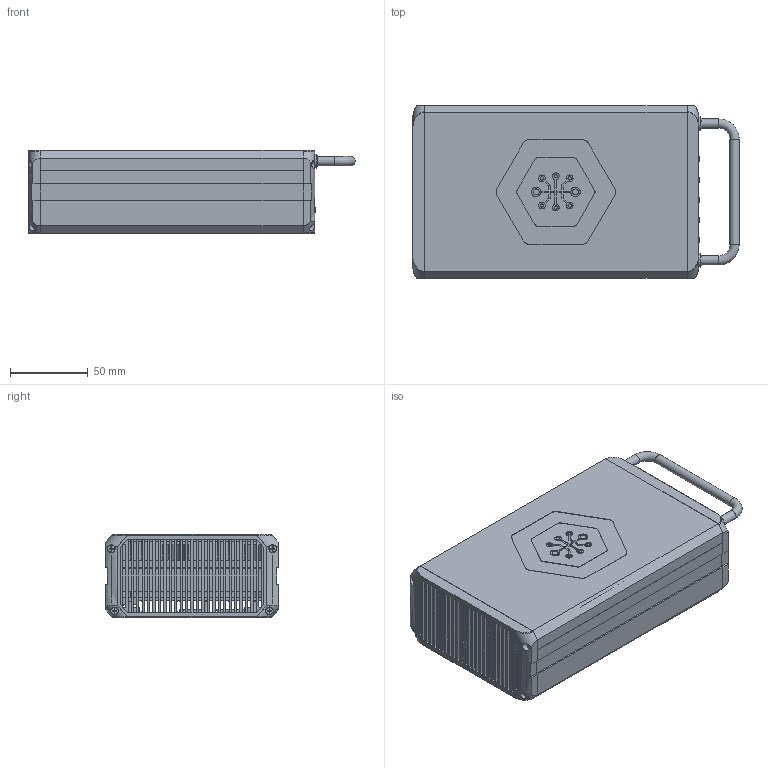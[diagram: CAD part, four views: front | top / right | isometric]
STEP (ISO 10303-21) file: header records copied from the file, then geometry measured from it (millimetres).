
FILE_DESCRIPTION(/* description */ ('KiCad electronic assembly'),/* implementation_level */ '2;1');
FILE_NAME(/* name */ 'antmicro-enclosure-for-jetson-agx-thor.step',/* time_stamp */ '2026-04-10T14:16:43+02:00',/* author */ (''),/* organization */ (''),/* preprocessor_version */ 'ST-DEVELOPER v20.1',/* originating_system */ 'Autodesk Translation Framework v14.24.0.0',/* authorisation */ '');
FILE_SCHEMA (('AUTOMOTIVE_DESIGN { 1 0 10303 214 3 1 1 }'));
Length unit declared in the file: millimetre
Products named in the file (16): Configuration 1; C-JAT-TC-AL-A; C-JAT-FP-AL-A; C-JAT-BS-AL-A; DIN 7985 - M4x8-H H Steel 4.6 Plain; DIN EN ISO 7046-2 - M2.5x8 - H Steel 4.6 Plain; DIN EN ISO 7046-2 - M2.5x10 - H Steel 4.6 Plain; DIN 7985 - M4x18-H H Steel 4.6 Plain; C-JAT-SH-CU-N; Lightguides; 1282.1200; C-JAT-BP-AL-A; GN 425-6-88-BT; EF50151BX-1B000-A99; P-JAT-FS-PC-N; P-JAT-BB-PC-N
Assembly tree (37 placements, depth 3):
  Configuration 1
    C-JAT-TC-AL-A
    C-JAT-FP-AL-A
    C-JAT-BS-AL-A
    DIN 7985 - M4x8-H H Steel 4.6 Plain  x2
    DIN EN ISO 7046-2 - M2.5x8 - H Steel 4.6 Plain  x8
    DIN EN ISO 7046-2 - M2.5x10 - H Steel 4.6 Plain  x7
    DIN 7985 - M4x18-H H Steel 4.6 Plain  x4
    C-JAT-SH-CU-N
    Lightguides
      1282.1200  x5
    C-JAT-BP-AL-A
    GN 425-6-88-BT
    EF50151BX-1B000-A99  x2
    P-JAT-FS-PC-N
    P-JAT-BB-PC-N
Bounding box: 210 x 111 x 53.5 mm (x, y, z)
Volume: 316775.3 mm3; surface area: 292280.3 mm2
Topology: 38 solids, 40 shells, 2089 faces, 5660 edges, 3742 vertices
Faces by surface type: plane 1195, cylinder 683, bspline 104, cone 84, torus 17, sphere 6
Full cylindrical faces by diameter (mm): 2.075 x8, 2.1 x4, 2.275 x15, 2.43 x15, 2.459 x2, 2.5 x8, 2.7 x15, 2.8 x15, 3.2 x11, 3.332 x12, 3.4 x2, 3.65 x6, 3.7 x4, 3.908 x6, 4.5 x8, 4.7 x15, 5.1 x17, 5.116 x1, 6 x3, 6.6 x2, 9 x2, 31.6 x2
Entity records: 54045 total; most frequent: CARTESIAN_POINT 11374, ORIENTED_EDGE 8938, DIRECTION 8455, EDGE_CURVE 4469, LINE 3009, VECTOR 3009, VERTEX_POINT 2982, AXIS2_PLACEMENT_3D 2723
